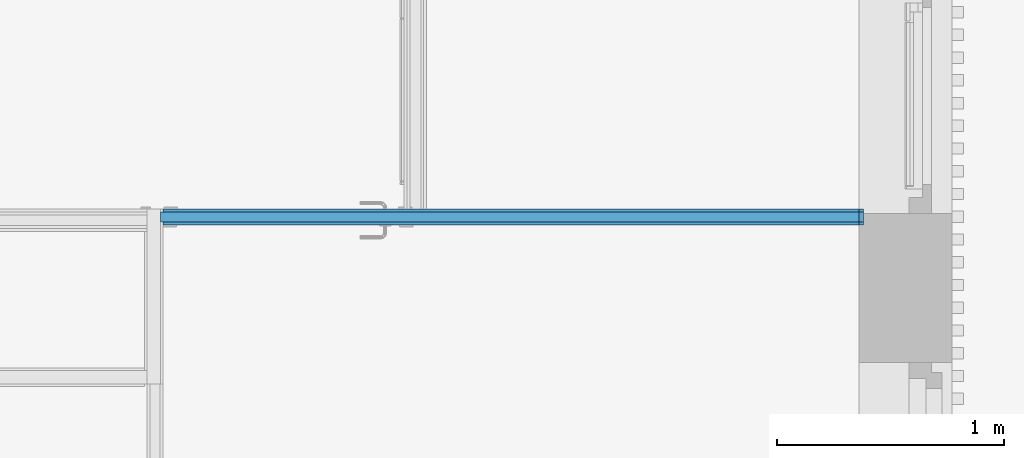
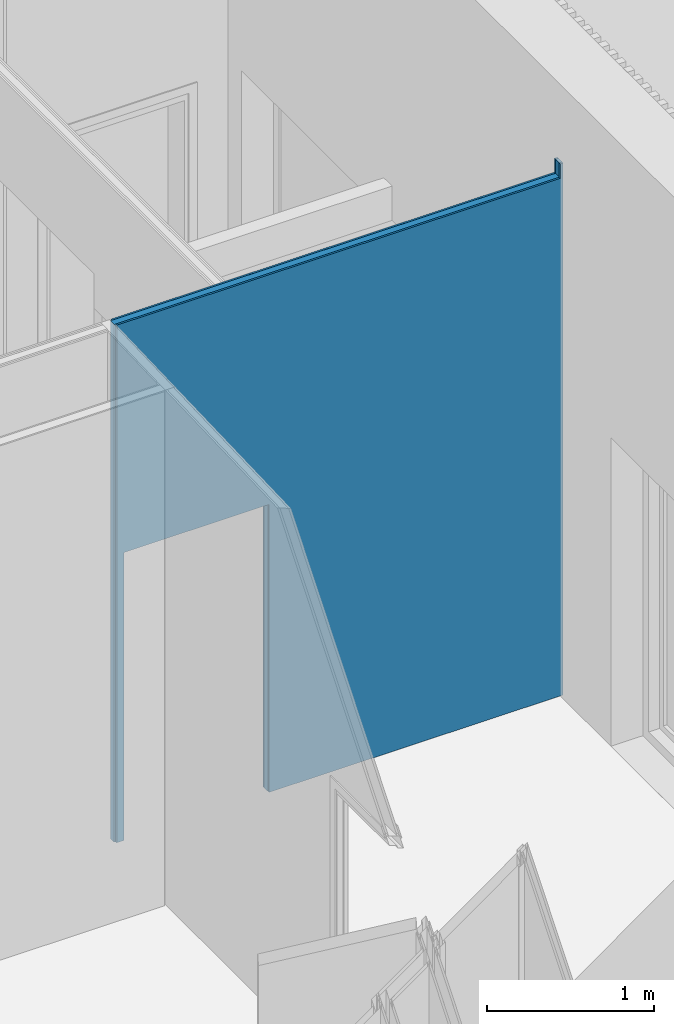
# One storey, part 30 of 34: 3 building element parts, 1 opening, 1 element without a shape of its own.
"""IFC2X3 building model written with IfcOpenShell, lengths in metres."""

from ifc_helpers import new_model, entity, si_unit, converted_unit, derived_unit, money_unit, direction, frame, origin_with_axes, origin_2d_with_axis, place, context, subcontext, project, spatial, polyline, rectangle, outline, extrude, boolean, faceted_brep, material, type_object, element, aggregate, save


model = new_model("IFC2X3")

# Units and contexts
model_context = context("Model", 3, precision=1e-05, world=origin_with_axes(), true_north=direction((0.0, 1.0)))
body_context = subcontext(model_context, "Body", "Model", "MODEL_VIEW")
ifc_project = project(units=[si_unit("LENGTHUNIT", "METRE"), si_unit("AREAUNIT", "SQUARE_METRE"), si_unit("VOLUMEUNIT", "CUBIC_METRE"), converted_unit("PLANEANGLEUNIT", "DEGREE", entity("IfcPlaneAngleMeasure", 0.0174532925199), si_unit("PLANEANGLEUNIT", "RADIAN"), dimensions=[0, 0, 0, 0, 0, 0, 0]), money_unit("CHF"), converted_unit("TIMEUNIT", "Year", entity("IfcTimeMeasure", 31556926.0), si_unit("TIMEUNIT", "SECOND"), dimensions=[0, 0, 1, 0, 0, 0, 0]), si_unit("MASSUNIT", "GRAM", prefix="KILO"), si_unit("THERMODYNAMICTEMPERATUREUNIT", "DEGREE_CELSIUS"), si_unit("LUMINOUSINTENSITYUNIT", "LUMEN"), si_unit("ENERGYUNIT", "JOULE", prefix="MEGA"), derived_unit("THERMALCONDUCTANCEUNIT", [(si_unit("POWERUNIT", "WATT"), 1), (si_unit("LENGTHUNIT", "METRE"), -1), (si_unit("THERMODYNAMICTEMPERATUREUNIT", "KELVIN"), -1)]), derived_unit("SPECIFICHEATCAPACITYUNIT", [(si_unit("ENERGYUNIT", "JOULE"), 1), (si_unit("MASSUNIT", "GRAM", prefix="KILO"), -1), (si_unit("THERMODYNAMICTEMPERATUREUNIT", "KELVIN"), -1)]), derived_unit("MASSDENSITYUNIT", [(si_unit("MASSUNIT", "GRAM", prefix="KILO"), 1), (si_unit("VOLUMEUNIT", "CUBIC_METRE"), -1)])], contexts=[model_context])

# Site, building, storey
site_placement = place(None, origin_with_axes())
site = spatial("IfcSite", under=ifc_project, at=site_placement, Name="Site", CompositionType="ELEMENT")
building_placement = place(site_placement, origin_with_axes())
building = spatial("IfcBuilding", under=site, at=building_placement, Name="Bâtiment", CompositionType="ELEMENT")
storey_placement = place(building_placement, origin_with_axes())
storey = spatial("IfcBuildingStorey", under=building, at=storey_placement, Name="Rez-de-chaussée", CompositionType="ELEMENT", Elevation=0.0)

# Wall, opening, building element parts
wall_type = type_object("IfcWallType", Name="Cloison 72/48 70", PredefinedType="NOTDEFINED")
wall_placement = place(storey_placement, frame((30.5694697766, 10.9801256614, 0.0), z_axis=(0.0, 0.0, 1.0), x_axis=(1.0, 0.0, 0.0)))
wall = element("IfcWall", 1, at=wall_placement, inside=storey, type_object=wall_type, Name="MUR_EXT-006")
opening_placement = place(wall_placement, frame((0.55, 0.0, 0.0), z_axis=(0.0, 0.0, 1.0), x_axis=(1.0, 0.0, 0.0)))
element("IfcOpeningElement", 2, at=opening_placement, cuts=wall, Name="PORTE-002", context=body_context, shape_type="SweptSolid", body=[
    extrude(rectangle(XDim=1.0, YDim=2.1, at=origin_2d_with_axis()), frame((0.0, -0.07, 1.05), z_axis=(0.0, 1.0, 0.0), x_axis=(-1.0, 0.0, 0.0)), (0.0, 0.0, 1.0), 0.21),
    extrude(rectangle(XDim=1.1, YDim=2.15, at=origin_2d_with_axis()), frame((0.0, -0.07, 1.075), z_axis=(0.0, 1.0, 0.0), x_axis=(-1.0, 0.0, 0.0)), (0.0, 0.0, -1.0), 0.07),
    extrude(rectangle(XDim=1.09, YDim=2.145, at=origin_2d_with_axis()), frame((0.0, 0.0, 1.0725), z_axis=(0.0, -1.0, 0.0), x_axis=(-1.0, 0.0, 0.0)), (0.0, 0.0, -1.0), 0.07),
])
ifc_material_1 = material(Name="Finition int - Plaque de plâtre")
building_element_part_1_placement = place(wall_placement, origin_with_axes())
building_element_part_1 = element("IfcBuildingElementPart", 3, at=building_element_part_1_placement, material=ifc_material_1, Name="Finition int - Plaque de plâtre", context=body_context, shape_type="CSG", body=[
    boolean("DIFFERENCE", boolean("DIFFERENCE", boolean("DIFFERENCE", boolean("DIFFERENCE", extrude(outline(polyline([(-0.08, -0.013), (3.47, -0.013), (3.47, 0.0), (-0.08, 0.0), (-0.08, -0.013)])), origin_with_axes(), (0.0, 0.0, 1.0), 4.0), faceted_brep([(1.073, -0.013, 2.25), (1.147, -0.013, 2.25), (1.147, -0.013, 3.26022608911), (1.073, -0.013, 3.26022608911), (1.073, 0.0, 2.25), (1.147, 0.0, 2.25), (1.147, 0.0, 3.26022608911), (1.073, 0.0, 3.26022608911)], [[[0, 1, 2, 3]], [[4, 5, 1, 0]], [[5, 6, 2, 1]], [[6, 7, 3, 2]], [[7, 4, 0, 3]], [[4, 7, 6, 5]]])), faceted_brep([(3.06, 0.0, 2.25), (3.08000000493, 0.0, 2.25), (3.08000000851, 0.0, 3.88036033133), (3.06000000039, 0.0, 3.88036033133), (3.06000000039, 0.0, 3.77780439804), (0.0, 0.0, 3.77780439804), (0.0, 0.0, 0.0), (-0.08, 0.0, 0.0), (-0.08, 0.0, 4.0), (3.47, 0.0, 4.0), (3.47, 0.0, 0.0), (3.06, 0.0, 0.0), (3.06, -0.013, 2.25), (3.08000000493, -0.013, 2.25), (3.08000000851, -0.013, 3.88036033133), (3.06000000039, -0.013, 3.88036033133), (3.06000000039, -0.013, 3.77734939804), (0.0, -0.013, 3.77734939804), (0.0, -0.013, 0.0), (-0.08, -0.013, 0.0), (-0.08, -0.013, 4.0), (3.47, -0.013, 4.0), (3.47, -0.013, 0.0), (3.06, -0.013, 0.0)], [[[0, 1, 2, 3, 4, 5, 6, 7, 8, 9, 10, 11]], [[1, 0, 12, 13]], [[2, 1, 13, 14]], [[3, 2, 14, 15]], [[4, 3, 15, 16]], [[5, 4, 16, 17]], [[6, 5, 17, 18]], [[6, 18, 19, 7]], [[8, 7, 19, 20]], [[8, 20, 21, 9]], [[21, 22, 10, 9]], [[23, 11, 10, 22]], [[0, 11, 23, 12]], [[12, 23, 22, 21, 20, 19, 18, 17, 16, 15, 14, 13]]])), faceted_brep([(3.06, -0.013, 2.25), (3.08000000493, -0.013, 2.25), (3.08000000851, -0.013, 3.88036033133), (3.06000000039, -0.013, 3.88036033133), (3.06000000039, -0.013, 3.77734939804), (0.0, -0.013, 3.77734939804), (-0.01, -0.013, 3.77734939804), (-0.01, -0.013, 0.0), (-0.08, -0.013, 0.0), (-0.08, -0.013, 4.0), (3.47, -0.013, 4.0), (3.47, -0.013, 0.0), (3.06, -0.013, 0.0), (3.06, -0.0201256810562, 2.25), (3.08000000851, -0.0201256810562, 2.25), (3.08, -0.0201256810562, 0.0), (3.08, -0.057, 0.0), (3.08000000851, -0.057, 3.88036033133), (3.06000000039, -0.057, 3.88036033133), (3.06000000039, -0.057, 3.77580939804), (0.0, -0.057, 3.77580939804), (-0.01, -0.057, 3.77580939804), (-0.01, -0.057, 0.0), (-0.08, -0.057, 0.0), (-0.08, -0.057, 4.0), (3.47, -0.057, 4.0), (3.47, -0.057, 0.0), (3.06, -0.0201256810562, 0.0)], [[[0, 1, 2, 3, 4, 5, 6, 7, 8, 9, 10, 11, 12]], [[1, 0, 13, 14]], [[15, 16, 17, 2, 1, 14]], [[3, 2, 17, 18]], [[4, 3, 18, 19]], [[5, 4, 19, 20, 21, 6]], [[7, 6, 21, 22]], [[7, 22, 23, 8]], [[9, 8, 23, 24]], [[9, 24, 25, 10]], [[25, 26, 11, 10]], [[27, 12, 11, 26, 16, 15]], [[0, 12, 27, 13]], [[27, 15, 14, 13]], [[17, 16, 26, 25, 24, 23, 22, 21, 20, 19, 18]]])), faceted_brep([(0.0, -0.057, 3.77580939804), (0.0, -0.057, 0.0), (-0.08, -0.057, 0.0), (-0.08, -0.057, 4.0), (3.47, -0.057, 4.0), (3.47, -0.057, 0.0), (3.08, -0.057, 0.0), (3.08000000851, -0.057, 3.88036033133), (3.06000000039, -0.057, 3.88036033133), (3.06000000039, -0.057, 3.77580939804), (0.0, -0.07, 3.77535439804), (0.0, -0.07, 0.0), (-0.08, -0.07, 0.0), (-0.08, -0.07, 4.0), (3.47, -0.07, 4.0), (3.47, -0.07, 0.0), (3.08, -0.07, 0.0), (3.08000000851, -0.07, 3.88036033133), (3.06000000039, -0.07, 3.88036033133), (3.06000000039, -0.07, 3.77535439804)], [[[0, 1, 2, 3, 4, 5, 6, 7, 8, 9]], [[1, 0, 10, 11]], [[1, 11, 12, 2]], [[3, 2, 12, 13]], [[3, 13, 14, 4]], [[14, 15, 5, 4]], [[16, 6, 5, 15]], [[6, 16, 17, 7]], [[17, 18, 8, 7]], [[9, 8, 18, 19]], [[0, 9, 19, 10]], [[17, 16, 15, 14, 13, 12, 11, 10, 19, 18]]])),
])
ifc_material_2 = material(Name="Isolation - Laine de verre")
building_element_part_2_placement = place(wall_placement, origin_with_axes())
building_element_part_2 = element("IfcBuildingElementPart", 4, at=building_element_part_2_placement, material=ifc_material_2, Name="Isolation - Laine de verre", context=body_context, shape_type="CSG", body=[
    boolean("DIFFERENCE", boolean("DIFFERENCE", boolean("DIFFERENCE", boolean("DIFFERENCE", extrude(outline(polyline([(-0.08, -0.057), (3.47, -0.057), (3.47, -0.013), (-0.08, -0.013), (-0.08, -0.057)])), origin_with_axes(), (0.0, 0.0, 1.0), 4.0), faceted_brep([(1.073, -0.013, 2.25), (1.147, -0.013, 2.25), (1.147, -0.013, 3.26022608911), (1.073, -0.013, 3.26022608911), (1.073, 0.0, 2.25), (1.147, 0.0, 2.25), (1.147, 0.0, 3.26022608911), (1.073, 0.0, 3.26022608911)], [[[0, 1, 2, 3]], [[4, 5, 1, 0]], [[5, 6, 2, 1]], [[6, 7, 3, 2]], [[7, 4, 0, 3]], [[4, 7, 6, 5]]])), faceted_brep([(3.06, 0.0, 2.25), (3.08000000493, 0.0, 2.25), (3.08000000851, 0.0, 3.88036033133), (3.06000000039, 0.0, 3.88036033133), (3.06000000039, 0.0, 3.77780439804), (0.0, 0.0, 3.77780439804), (0.0, 0.0, 0.0), (-0.08, 0.0, 0.0), (-0.08, 0.0, 4.0), (3.47, 0.0, 4.0), (3.47, 0.0, 0.0), (3.06, 0.0, 0.0), (3.06, -0.013, 2.25), (3.08000000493, -0.013, 2.25), (3.08000000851, -0.013, 3.88036033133), (3.06000000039, -0.013, 3.88036033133), (3.06000000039, -0.013, 3.77734939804), (0.0, -0.013, 3.77734939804), (0.0, -0.013, 0.0), (-0.08, -0.013, 0.0), (-0.08, -0.013, 4.0), (3.47, -0.013, 4.0), (3.47, -0.013, 0.0), (3.06, -0.013, 0.0)], [[[0, 1, 2, 3, 4, 5, 6, 7, 8, 9, 10, 11]], [[1, 0, 12, 13]], [[2, 1, 13, 14]], [[3, 2, 14, 15]], [[4, 3, 15, 16]], [[5, 4, 16, 17]], [[6, 5, 17, 18]], [[6, 18, 19, 7]], [[8, 7, 19, 20]], [[8, 20, 21, 9]], [[21, 22, 10, 9]], [[23, 11, 10, 22]], [[0, 11, 23, 12]], [[12, 23, 22, 21, 20, 19, 18, 17, 16, 15, 14, 13]]])), faceted_brep([(3.06, -0.013, 2.25), (3.08000000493, -0.013, 2.25), (3.08000000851, -0.013, 3.88036033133), (3.06000000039, -0.013, 3.88036033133), (3.06000000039, -0.013, 3.77734939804), (0.0, -0.013, 3.77734939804), (-0.01, -0.013, 3.77734939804), (-0.01, -0.013, 0.0), (-0.08, -0.013, 0.0), (-0.08, -0.013, 4.0), (3.47, -0.013, 4.0), (3.47, -0.013, 0.0), (3.06, -0.013, 0.0), (3.06, -0.0201256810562, 2.25), (3.08000000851, -0.0201256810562, 2.25), (3.08, -0.0201256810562, 0.0), (3.08, -0.057, 0.0), (3.08000000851, -0.057, 3.88036033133), (3.06000000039, -0.057, 3.88036033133), (3.06000000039, -0.057, 3.77580939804), (0.0, -0.057, 3.77580939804), (-0.01, -0.057, 3.77580939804), (-0.01, -0.057, 0.0), (-0.08, -0.057, 0.0), (-0.08, -0.057, 4.0), (3.47, -0.057, 4.0), (3.47, -0.057, 0.0), (3.06, -0.0201256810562, 0.0)], [[[0, 1, 2, 3, 4, 5, 6, 7, 8, 9, 10, 11, 12]], [[1, 0, 13, 14]], [[15, 16, 17, 2, 1, 14]], [[3, 2, 17, 18]], [[4, 3, 18, 19]], [[5, 4, 19, 20, 21, 6]], [[7, 6, 21, 22]], [[7, 22, 23, 8]], [[9, 8, 23, 24]], [[9, 24, 25, 10]], [[25, 26, 11, 10]], [[27, 12, 11, 26, 16, 15]], [[0, 12, 27, 13]], [[27, 15, 14, 13]], [[17, 16, 26, 25, 24, 23, 22, 21, 20, 19, 18]]])), faceted_brep([(0.0, -0.057, 3.77580939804), (0.0, -0.057, 0.0), (-0.08, -0.057, 0.0), (-0.08, -0.057, 4.0), (3.47, -0.057, 4.0), (3.47, -0.057, 0.0), (3.08, -0.057, 0.0), (3.08000000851, -0.057, 3.88036033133), (3.06000000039, -0.057, 3.88036033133), (3.06000000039, -0.057, 3.77580939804), (0.0, -0.07, 3.77535439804), (0.0, -0.07, 0.0), (-0.08, -0.07, 0.0), (-0.08, -0.07, 4.0), (3.47, -0.07, 4.0), (3.47, -0.07, 0.0), (3.08, -0.07, 0.0), (3.08000000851, -0.07, 3.88036033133), (3.06000000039, -0.07, 3.88036033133), (3.06000000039, -0.07, 3.77535439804)], [[[0, 1, 2, 3, 4, 5, 6, 7, 8, 9]], [[1, 0, 10, 11]], [[1, 11, 12, 2]], [[3, 2, 12, 13]], [[3, 13, 14, 4]], [[14, 15, 5, 4]], [[16, 6, 5, 15]], [[6, 16, 17, 7]], [[17, 18, 8, 7]], [[9, 8, 18, 19]], [[0, 9, 19, 10]], [[17, 16, 15, 14, 13, 12, 11, 10, 19, 18]]])),
])
building_element_part_3_placement = place(wall_placement, origin_with_axes())
building_element_part_3 = element("IfcBuildingElementPart", 5, at=building_element_part_3_placement, material=ifc_material_1, Name="Finition int - Plaque de plâtre", context=body_context, shape_type="CSG", body=[
    boolean("DIFFERENCE", boolean("DIFFERENCE", boolean("DIFFERENCE", boolean("DIFFERENCE", extrude(outline(polyline([(-0.08, -0.07), (3.47, -0.07), (3.47, -0.057), (-0.08, -0.057), (-0.08, -0.07)])), origin_with_axes(), (0.0, 0.0, 1.0), 4.0), faceted_brep([(1.073, -0.013, 2.25), (1.147, -0.013, 2.25), (1.147, -0.013, 3.26022608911), (1.073, -0.013, 3.26022608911), (1.073, 0.0, 2.25), (1.147, 0.0, 2.25), (1.147, 0.0, 3.26022608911), (1.073, 0.0, 3.26022608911)], [[[0, 1, 2, 3]], [[4, 5, 1, 0]], [[5, 6, 2, 1]], [[6, 7, 3, 2]], [[7, 4, 0, 3]], [[4, 7, 6, 5]]])), faceted_brep([(3.06, 0.0, 2.25), (3.08000000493, 0.0, 2.25), (3.08000000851, 0.0, 3.88036033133), (3.06000000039, 0.0, 3.88036033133), (3.06000000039, 0.0, 3.77780439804), (0.0, 0.0, 3.77780439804), (0.0, 0.0, 0.0), (-0.08, 0.0, 0.0), (-0.08, 0.0, 4.0), (3.47, 0.0, 4.0), (3.47, 0.0, 0.0), (3.06, 0.0, 0.0), (3.06, -0.013, 2.25), (3.08000000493, -0.013, 2.25), (3.08000000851, -0.013, 3.88036033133), (3.06000000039, -0.013, 3.88036033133), (3.06000000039, -0.013, 3.77734939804), (0.0, -0.013, 3.77734939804), (0.0, -0.013, 0.0), (-0.08, -0.013, 0.0), (-0.08, -0.013, 4.0), (3.47, -0.013, 4.0), (3.47, -0.013, 0.0), (3.06, -0.013, 0.0)], [[[0, 1, 2, 3, 4, 5, 6, 7, 8, 9, 10, 11]], [[1, 0, 12, 13]], [[2, 1, 13, 14]], [[3, 2, 14, 15]], [[4, 3, 15, 16]], [[5, 4, 16, 17]], [[6, 5, 17, 18]], [[6, 18, 19, 7]], [[8, 7, 19, 20]], [[8, 20, 21, 9]], [[21, 22, 10, 9]], [[23, 11, 10, 22]], [[0, 11, 23, 12]], [[12, 23, 22, 21, 20, 19, 18, 17, 16, 15, 14, 13]]])), faceted_brep([(3.06, -0.013, 2.25), (3.08000000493, -0.013, 2.25), (3.08000000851, -0.013, 3.88036033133), (3.06000000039, -0.013, 3.88036033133), (3.06000000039, -0.013, 3.77734939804), (0.0, -0.013, 3.77734939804), (-0.01, -0.013, 3.77734939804), (-0.01, -0.013, 0.0), (-0.08, -0.013, 0.0), (-0.08, -0.013, 4.0), (3.47, -0.013, 4.0), (3.47, -0.013, 0.0), (3.06, -0.013, 0.0), (3.06, -0.0201256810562, 2.25), (3.08000000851, -0.0201256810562, 2.25), (3.08, -0.0201256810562, 0.0), (3.08, -0.057, 0.0), (3.08000000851, -0.057, 3.88036033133), (3.06000000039, -0.057, 3.88036033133), (3.06000000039, -0.057, 3.77580939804), (0.0, -0.057, 3.77580939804), (-0.01, -0.057, 3.77580939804), (-0.01, -0.057, 0.0), (-0.08, -0.057, 0.0), (-0.08, -0.057, 4.0), (3.47, -0.057, 4.0), (3.47, -0.057, 0.0), (3.06, -0.0201256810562, 0.0)], [[[0, 1, 2, 3, 4, 5, 6, 7, 8, 9, 10, 11, 12]], [[1, 0, 13, 14]], [[15, 16, 17, 2, 1, 14]], [[3, 2, 17, 18]], [[4, 3, 18, 19]], [[5, 4, 19, 20, 21, 6]], [[7, 6, 21, 22]], [[7, 22, 23, 8]], [[9, 8, 23, 24]], [[9, 24, 25, 10]], [[25, 26, 11, 10]], [[27, 12, 11, 26, 16, 15]], [[0, 12, 27, 13]], [[27, 15, 14, 13]], [[17, 16, 26, 25, 24, 23, 22, 21, 20, 19, 18]]])), faceted_brep([(0.0, -0.057, 3.77580939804), (0.0, -0.057, 0.0), (-0.08, -0.057, 0.0), (-0.08, -0.057, 4.0), (3.47, -0.057, 4.0), (3.47, -0.057, 0.0), (3.08, -0.057, 0.0), (3.08000000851, -0.057, 3.88036033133), (3.06000000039, -0.057, 3.88036033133), (3.06000000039, -0.057, 3.77580939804), (0.0, -0.07, 3.77535439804), (0.0, -0.07, 0.0), (-0.08, -0.07, 0.0), (-0.08, -0.07, 4.0), (3.47, -0.07, 4.0), (3.47, -0.07, 0.0), (3.08, -0.07, 0.0), (3.08000000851, -0.07, 3.88036033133), (3.06000000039, -0.07, 3.88036033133), (3.06000000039, -0.07, 3.77535439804)], [[[0, 1, 2, 3, 4, 5, 6, 7, 8, 9]], [[1, 0, 10, 11]], [[1, 11, 12, 2]], [[3, 2, 12, 13]], [[3, 13, 14, 4]], [[14, 15, 5, 4]], [[16, 6, 5, 15]], [[6, 16, 17, 7]], [[17, 18, 8, 7]], [[9, 8, 18, 19]], [[0, 9, 19, 10]], [[17, 16, 15, 14, 13, 12, 11, 10, 19, 18]]])),
])
aggregate(wall, [building_element_part_1, building_element_part_2, building_element_part_3])

save(model, "model.ifc")
